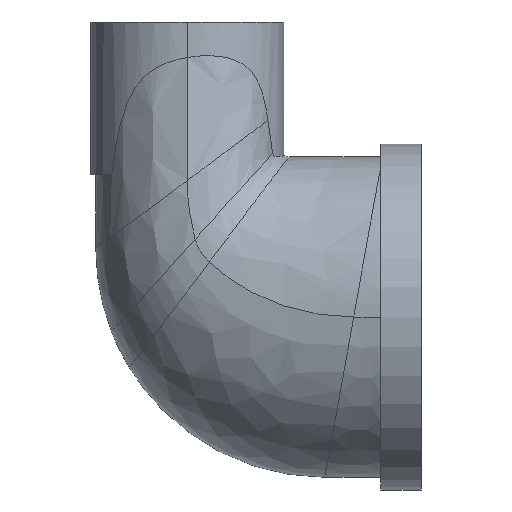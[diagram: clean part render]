
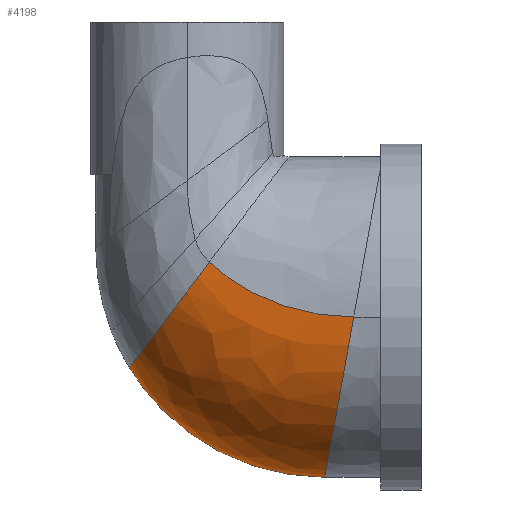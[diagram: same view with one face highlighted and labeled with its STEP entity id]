
A CAD part, front view. The second image highlights one B-rep face of the part: STEP entity #4198.
In plain terms, the highlighted free-form (B-spline) face has degree [3, 3] with [7, 7] control points.
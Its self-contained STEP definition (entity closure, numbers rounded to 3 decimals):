
#43 = CARTESIAN_POINT ( 'NONE',  ( 13.5, 0., -15.75 ) ) ;
#117 = VERTEX_POINT ( 'NONE', #3627 ) ;
#237 = VERTEX_POINT ( 'NONE', #2178 ) ;
#269 = CARTESIAN_POINT ( 'NONE',  ( 1.138, -12.478, 4.049 ) ) ;
#337 = CARTESIAN_POINT ( 'NONE',  ( -4.71, 0., -6.604 ) ) ;
#369 = CARTESIAN_POINT ( 'NONE',  ( 3.028, -12.671, 4.573 ) ) ;
#372 = CARTESIAN_POINT ( 'NONE',  ( 7.745, 0., -15.257 ) ) ;
#511 = CARTESIAN_POINT ( 'NONE',  ( 15.009, -14.601, 0. ) ) ;
#626 = CARTESIAN_POINT ( 'NONE',  ( 2.146, -12.478, 5.392 ) ) ;
#808 = EDGE_CURVE ( 'NONE', #9284, #117, #2701, .T. ) ;
#957 = CARTESIAN_POINT ( 'NONE',  ( 16.351, -14.794, 0. ) ) ;
#988 = CARTESIAN_POINT ( 'NONE',  ( 13.665, -5.809, -14.907 ) ) ;
#998 = CARTESIAN_POINT ( 'NONE',  ( 15.259, -14.024, -6.145 ) ) ;
#1062 = CARTESIAN_POINT ( 'NONE',  ( 7.702, -13.636, -0.533 ) ) ;
#1094 = CARTESIAN_POINT ( 'NONE',  ( -5.709, 0., -4.966 ) ) ;
#1123 = CARTESIAN_POINT ( 'NONE',  ( 4.072, -13.057, 1.422 ) ) ;
#1208 = CARTESIAN_POINT ( 'NONE',  ( 16.351, -14.794, 0. ) ) ;
#1678 = CARTESIAN_POINT ( 'NONE',  ( 13.5, 0., -15.75 ) ) ;
#1719 = CARTESIAN_POINT ( 'NONE',  ( 13.665, -5.809, -14.907 ) ) ;
#1749 = CARTESIAN_POINT ( 'NONE',  ( 2.037, -12.671, 3.125 ) ) ;
#1783 = CARTESIAN_POINT ( 'NONE',  ( 2.205, -12.377, -1.86 ) ) ;
#1819 = ORIENTED_EDGE ( 'NONE', *, *, #808, .T. ) ;
#1843 = CARTESIAN_POINT ( 'NONE',  ( 16.351, -14.794, 0. ) ) ;
#1846 = CARTESIAN_POINT ( 'NONE',  ( 13.5, 0., -15.75 ) ) ;
#1887 = ORIENTED_EDGE ( 'NONE', *, *, #4990, .T. ) ;
#2178 = CARTESIAN_POINT ( 'NONE',  ( 16.351, -14.794, 0. ) ) ;
#2454 = CARTESIAN_POINT ( 'NONE',  ( -5.263, -4.899, -4.403 ) ) ;
#2489 = CARTESIAN_POINT ( 'NONE',  ( -4.269, -4.975, -5.995 ) ) ;
#2520 = CARTESIAN_POINT ( 'NONE',  ( 11.582, 0., -15.75 ) ) ;
#2523 = CARTESIAN_POINT ( 'NONE',  ( 2.365, 0., -13.085 ) ) ;
#2545 = CARTESIAN_POINT ( 'NONE',  ( 13.696, -13.841, -6.137 ) ) ;
#2575 = CARTESIAN_POINT ( 'NONE',  ( -2.291, -1.709, -9.622 ) ) ;
#2644 = CARTESIAN_POINT ( 'NONE',  ( -5.709, 0., -4.966 ) ) ;
#2701 = B_SPLINE_CURVE_WITH_KNOTS ( 'NONE', 3,
 ( #8322, #6983, #3955, #6152, #4040, #4754, #2644 ),
 .UNSPECIFIED., .F., .F.,
 ( 4, 1, 1, 1, 4 ),
 ( 0., 0.25, 0.5, 0.75, 1. ),
 .UNSPECIFIED. ) ;
#2729 = CARTESIAN_POINT ( 'NONE',  ( 2.146, -12.478, 5.392 ) ) ;
#2899 = CARTESIAN_POINT ( 'NONE',  ( 15.987, -14.794, -2.049 ) ) ;
#3165 = CARTESIAN_POINT ( 'NONE',  ( -2.291, 0., -9.622 ) ) ;
#3195 = CARTESIAN_POINT ( 'NONE',  ( -5.709, -1.633, -4.966 ) ) ;
#3256 = CARTESIAN_POINT ( 'NONE',  ( 10.571, -13.475, -5.782 ) ) ;
#3286 = CARTESIAN_POINT ( 'NONE',  ( 14.318, -10.733, -11.377 ) ) ;
#3365 = FACE_OUTER_BOUND ( 'NONE', #5163, .T. ) ;
#3514 = B_SPLINE_CURVE_WITH_KNOTS ( 'NONE', 3,
 ( #1208, #511, #4144, #4951, #9427, #5707, #626 ),
 .UNSPECIFIED., .F., .F.,
 ( 4, 1, 1, 1, 4 ),
 ( 0., 0.25, 0.5, 0.75, 1. ),
 .UNSPECIFIED. ) ;
#3627 = CARTESIAN_POINT ( 'NONE',  ( -5.709, 0., -4.966 ) ) ;
#3684 = CARTESIAN_POINT ( 'NONE',  ( 15.259, -14.024, -6.145 ) ) ;
#3887 = CARTESIAN_POINT ( 'NONE',  ( 11.78, -5.733, -14.902 ) ) ;
#3954 = CARTESIAN_POINT ( 'NONE',  ( -2.291, 0., -9.622 ) ) ;
#3955 = CARTESIAN_POINT ( 'NONE',  ( -0.877, -11.829, 1.364 ) ) ;
#3979 = CARTESIAN_POINT ( 'NONE',  ( 9.059, -10.313, -10.927 ) ) ;
#4007 = CARTESIAN_POINT ( 'NONE',  ( 8.01, -5.581, -14.415 ) ) ;
#4039 = CARTESIAN_POINT ( 'NONE',  ( -4.71, 0., -6.604 ) ) ;
#4040 = CARTESIAN_POINT ( 'NONE',  ( -5.263, -4.899, -4.403 ) ) ;
#4144 = CARTESIAN_POINT ( 'NONE',  ( 12.323, -14.215, 0.247 ) ) ;
#4198 = ADVANCED_FACE ( 'NONE', ( #3365 ), #5798, .T. ) ;
#4558 = CARTESIAN_POINT ( 'NONE',  ( 14.318, -10.733, -11.377 ) ) ;
#4595 = CARTESIAN_POINT ( 'NONE',  ( 2.146, -12.478, 5.392 ) ) ;
#4637 = EDGE_CURVE ( 'NONE', #237, #7402, #6418, .T. ) ;
#4662 = CARTESIAN_POINT ( 'NONE',  ( -1.873, -5.127, -8.928 ) ) ;
#4690 = CARTESIAN_POINT ( 'NONE',  ( 13.5, -1.937, -15.75 ) ) ;
#4720 = CARTESIAN_POINT ( 'NONE',  ( 7.745, -1.861, -15.257 ) ) ;
#4754 = CARTESIAN_POINT ( 'NONE',  ( -5.709, -1.633, -4.966 ) ) ;
#4951 = CARTESIAN_POINT ( 'NONE',  ( 8.483, -13.636, 1.333 ) ) ;
#4990 = EDGE_CURVE ( 'NONE', #237, #9284, #3514, .T. ) ;
#5163 = EDGE_LOOP ( 'NONE', ( #1819, #8051, #6616, #1887 ) ) ;
#5313 = CARTESIAN_POINT ( 'NONE',  ( 2.718, -5.354, -12.297 ) ) ;
#5381 = CARTESIAN_POINT ( 'NONE',  ( 15.987, -14.794, -2.049 ) ) ;
#5411 = CARTESIAN_POINT ( 'NONE',  ( -2.505, -9.193, -3.478 ) ) ;
#5441 = CARTESIAN_POINT ( 'NONE',  ( 2.365, -1.785, -13.085 ) ) ;
#5564 = B_SPLINE_CURVE_WITH_KNOTS ( 'NONE', 3,
 ( #1846, #8292, #372, #2523, #3954, #4039, #9021 ),
 .UNSPECIFIED., .F., .F.,
 ( 4, 1, 1, 1, 4 ),
 ( 0., 0.25, 0.5, 0.75, 1. ),
 .UNSPECIFIED. ) ;
#5707 = CARTESIAN_POINT ( 'NONE',  ( 3.028, -12.671, 4.573 ) ) ;
#5798 = B_SPLINE_SURFACE_WITH_KNOTS ( 'NONE', 3, 3, ( 
 ( #1843, #5381, #998, #3286, #1719, #4690, #6795 ),
 ( #6859, #8285, #2545, #8318, #3887, #7610, #2520 ),
 ( #7581, #8345, #3256, #3979, #4007, #4720, #6889 ),
 ( #6174, #1062, #9017, #9051, #5313, #5441, #9081 ),
 ( #6918, #1123, #1783, #6085, #4662, #2575, #3165 ),
 ( #369, #1749, #8225, #5411, #2489, #8958, #337 ),
 ( #4595, #269, #6057, #6117, #2454, #3195, #1094 ) ),
 .UNSPECIFIED., .F., .F., .F.,
 ( 4, 1, 1, 1, 4 ),
 ( 4, 1, 1, 1, 4 ),
 ( 0.142, 0.227, 0.313, 0.399, 0.485 ),
 ( 0.75, 0.813, 0.875, 0.938, 1. ),
 .UNSPECIFIED. ) ;
#6015 = CARTESIAN_POINT ( 'NONE',  ( 13.5, -1.937, -15.75 ) ) ;
#6028 = EDGE_CURVE ( 'NONE', #7402, #117, #5564, .T. ) ;
#6057 = CARTESIAN_POINT ( 'NONE',  ( -0.877, -11.829, 1.364 ) ) ;
#6085 = CARTESIAN_POINT ( 'NONE',  ( -0.206, -9.473, -6.068 ) ) ;
#6117 = CARTESIAN_POINT ( 'NONE',  ( -3.475, -9.053, -2.073 ) ) ;
#6152 = CARTESIAN_POINT ( 'NONE',  ( -3.475, -9.053, -2.073 ) ) ;
#6174 = CARTESIAN_POINT ( 'NONE',  ( 8.483, -13.636, 1.333 ) ) ;
#6418 = B_SPLINE_CURVE_WITH_KNOTS ( 'NONE', 3,
 ( #957, #2899, #3684, #4558, #988, #6015, #1678 ),
 .UNSPECIFIED., .F., .F.,
 ( 4, 1, 1, 1, 4 ),
 ( 0., 0.25, 0.5, 0.75, 1. ),
 .UNSPECIFIED. ) ;
#6616 = ORIENTED_EDGE ( 'NONE', *, *, #4637, .F. ) ;
#6795 = CARTESIAN_POINT ( 'NONE',  ( 13.5, 0., -15.75 ) ) ;
#6859 = CARTESIAN_POINT ( 'NONE',  ( 15.009, -14.601, 0. ) ) ;
#6889 = CARTESIAN_POINT ( 'NONE',  ( 7.745, 0., -15.257 ) ) ;
#6918 = CARTESIAN_POINT ( 'NONE',  ( 5.005, -13.057, 3.064 ) ) ;
#6983 = CARTESIAN_POINT ( 'NONE',  ( 1.138, -12.478, 4.049 ) ) ;
#7402 = VERTEX_POINT ( 'NONE', #43 ) ;
#7581 = CARTESIAN_POINT ( 'NONE',  ( 12.323, -14.215, 0.247 ) ) ;
#7610 = CARTESIAN_POINT ( 'NONE',  ( 11.582, -1.911, -15.75 ) ) ;
#8051 = ORIENTED_EDGE ( 'NONE', *, *, #6028, .F. ) ;
#8225 = CARTESIAN_POINT ( 'NONE',  ( 0.054, -12.012, 0.231 ) ) ;
#8285 = CARTESIAN_POINT ( 'NONE',  ( 14.571, -14.601, -2.046 ) ) ;
#8292 = CARTESIAN_POINT ( 'NONE',  ( 11.582, 0., -15.75 ) ) ;
#8318 = CARTESIAN_POINT ( 'NONE',  ( 12.565, -10.593, -11.367 ) ) ;
#8322 = CARTESIAN_POINT ( 'NONE',  ( 2.146, -12.478, 5.392 ) ) ;
#8345 = CARTESIAN_POINT ( 'NONE',  ( 11.739, -14.215, -1.763 ) ) ;
#8958 = CARTESIAN_POINT ( 'NONE',  ( -4.71, -1.659, -6.604 ) ) ;
#9017 = CARTESIAN_POINT ( 'NONE',  ( 6.139, -12.926, -4.265 ) ) ;
#9021 = CARTESIAN_POINT ( 'NONE',  ( -5.709, 0., -4.966 ) ) ;
#9051 = CARTESIAN_POINT ( 'NONE',  ( 4.118, -9.893, -9.047 ) ) ;
#9081 = CARTESIAN_POINT ( 'NONE',  ( 2.365, 0., -13.085 ) ) ;
#9284 = VERTEX_POINT ( 'NONE', #2729 ) ;
#9427 = CARTESIAN_POINT ( 'NONE',  ( 5.005, -13.057, 3.064 ) ) ;
